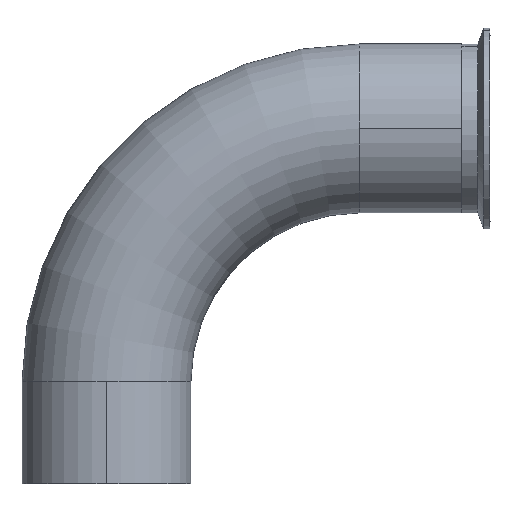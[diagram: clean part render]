
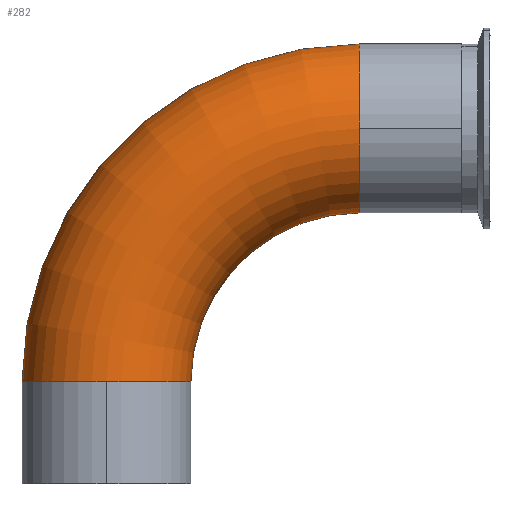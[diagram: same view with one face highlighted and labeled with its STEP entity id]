
A CAD part, top view. The second image highlights one B-rep face of the part: STEP entity #282.
In plain terms, the highlighted toroidal (fillet/blend) face has major radius 114.3 mm and minor radius 38.1 mm.
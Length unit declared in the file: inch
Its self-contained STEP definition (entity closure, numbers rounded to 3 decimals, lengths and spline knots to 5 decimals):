
#3 = AXIS2_PLACEMENT_3D ( 'NONE', #980, #561, #80 ) ;
#5 = AXIS2_PLACEMENT_3D ( 'NONE', #937, #556, #75 ) ;
#6 = DIRECTION ( 'NONE',  ( 0., 0., -1. ) ) ;
#12 = FACE_OUTER_BOUND ( 'NONE', #309, .T. ) ;
#16 = ORIENTED_EDGE ( 'NONE', *, *, #213, .T. ) ;
#42 = AXIS2_PLACEMENT_3D ( 'NONE', #69, #629, #145 ) ;
#57 = ORIENTED_EDGE ( 'NONE', *, *, #127, .F. ) ;
#60 = AXIS2_PLACEMENT_3D ( 'NONE', #253, #802, #336 ) ;
#69 = CARTESIAN_POINT ( 'NONE',  ( 0.80111, 4.39238, 8.12898 ) ) ;
#71 = AXIS2_PLACEMENT_3D ( 'NONE', #281, #6, #697 ) ;
#75 = DIRECTION ( 'NONE',  ( -1., 0., 0. ) ) ;
#79 = CARTESIAN_POINT ( 'NONE',  ( 5.30111, 8.89238, 8.12898 ) ) ;
#80 = DIRECTION ( 'NONE',  ( 0., 0., 1. ) ) ;
#89 = AXIS2_PLACEMENT_3D ( 'NONE', #79, #642, #154 ) ;
#120 = EDGE_CURVE ( 'NONE', #496, #204, #613, .T. ) ;
#122 = CARTESIAN_POINT ( 'NONE',  ( 2.30111, 4.39238, 8.12898 ) ) ;
#127 = EDGE_CURVE ( 'NONE', #420, #519, #958, .T. ) ;
#140 = EDGE_CURVE ( 'NONE', #519, #496, #377, .T. ) ;
#145 = DIRECTION ( 'NONE',  ( 0., 0., 1. ) ) ;
#154 = DIRECTION ( 'NONE',  ( 0., 0., 1. ) ) ;
#162 = EDGE_CURVE ( 'NONE', #420, #928, #315, .T. ) ;
#175 = ORIENTED_EDGE ( 'NONE', *, *, #140, .F. ) ;
#193 = CARTESIAN_POINT ( 'NONE',  ( 0.80111, 4.39238, 9.62898 ) ) ;
#202 = DIRECTION ( 'NONE',  ( 0., 0., -1. ) ) ;
#204 = VERTEX_POINT ( 'NONE', #489 ) ;
#205 = CARTESIAN_POINT ( 'NONE',  ( -0.69889, 4.39238, 8.12898 ) ) ;
#210 = EDGE_CURVE ( 'NONE', #576, #204, #860, .T. ) ;
#213 = EDGE_CURVE ( 'NONE', #928, #576, #672, .T. ) ;
#253 = CARTESIAN_POINT ( 'NONE',  ( 5.30111, 8.89238, 8.12898 ) ) ;
#281 = CARTESIAN_POINT ( 'NONE',  ( 5.30111, 4.39238, 8.12898 ) ) ;
#282 = ADVANCED_FACE ( 'NONE', ( #12 ), #625, .T. ) ;
#288 = ORIENTED_EDGE ( 'NONE', *, *, #210, .T. ) ;
#309 = EDGE_LOOP ( 'NONE', ( #57, #782, #16, #288, #967, #175 ) ) ;
#315 = CIRCLE ( 'NONE', #42, 1.5 ) ;
#336 = DIRECTION ( 'NONE',  ( 0., 0., 1. ) ) ;
#361 = CARTESIAN_POINT ( 'NONE',  ( 5.30111, 4.39238, 8.12898 ) ) ;
#377 = CIRCLE ( 'NONE', #60, 1.5 ) ;
#420 = VERTEX_POINT ( 'NONE', #205 ) ;
#445 = CARTESIAN_POINT ( 'NONE',  ( 5.30111, 10.39238, 8.12898 ) ) ;
#489 = CARTESIAN_POINT ( 'NONE',  ( 5.30111, 7.39238, 8.12898 ) ) ;
#493 = DIRECTION ( 'NONE',  ( -1., 0., 0. ) ) ;
#496 = VERTEX_POINT ( 'NONE', #675 ) ;
#519 = VERTEX_POINT ( 'NONE', #445 ) ;
#556 = DIRECTION ( 'NONE',  ( 0., 0., -1. ) ) ;
#561 = DIRECTION ( 'NONE',  ( 0., 1., 0. ) ) ;
#576 = VERTEX_POINT ( 'NONE', #122 ) ;
#613 = CIRCLE ( 'NONE', #89, 1.5 ) ;
#625 = TOROIDAL_SURFACE ( 'NONE', #794, 4.5, 1.5 ) ;
#629 = DIRECTION ( 'NONE',  ( 0., 1., 0. ) ) ;
#642 = DIRECTION ( 'NONE',  ( 1., 0., 0. ) ) ;
#672 = CIRCLE ( 'NONE', #3, 1.5 ) ;
#675 = CARTESIAN_POINT ( 'NONE',  ( 5.30111, 8.89238, 9.62898 ) ) ;
#697 = DIRECTION ( 'NONE',  ( -1., 0., 0. ) ) ;
#782 = ORIENTED_EDGE ( 'NONE', *, *, #162, .T. ) ;
#794 = AXIS2_PLACEMENT_3D ( 'NONE', #361, #202, #493 ) ;
#802 = DIRECTION ( 'NONE',  ( 1., 0., 0. ) ) ;
#860 = CIRCLE ( 'NONE', #5, 3. ) ;
#928 = VERTEX_POINT ( 'NONE', #193 ) ;
#937 = CARTESIAN_POINT ( 'NONE',  ( 5.30111, 4.39238, 8.12898 ) ) ;
#958 = CIRCLE ( 'NONE', #71, 6. ) ;
#967 = ORIENTED_EDGE ( 'NONE', *, *, #120, .F. ) ;
#980 = CARTESIAN_POINT ( 'NONE',  ( 0.80111, 4.39238, 8.12898 ) ) ;
